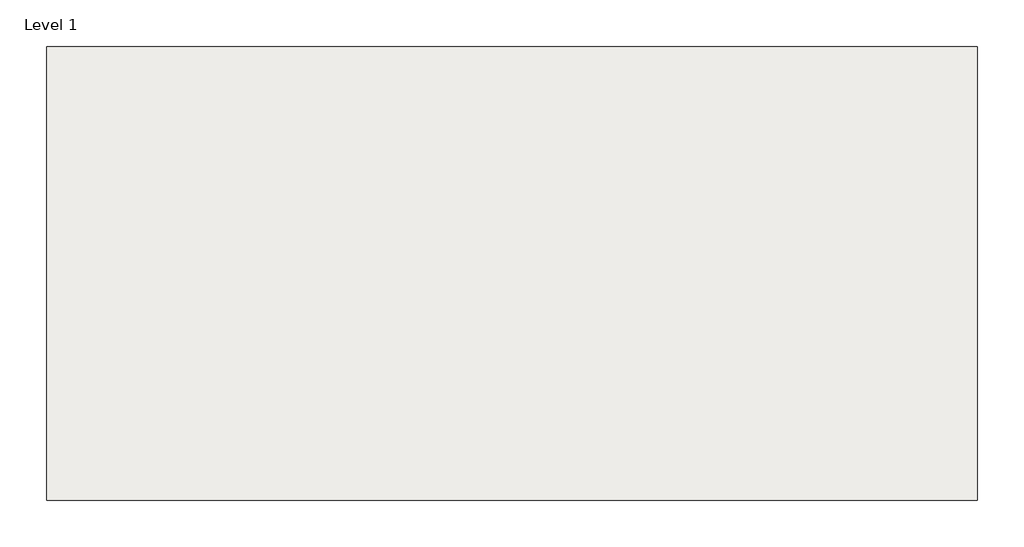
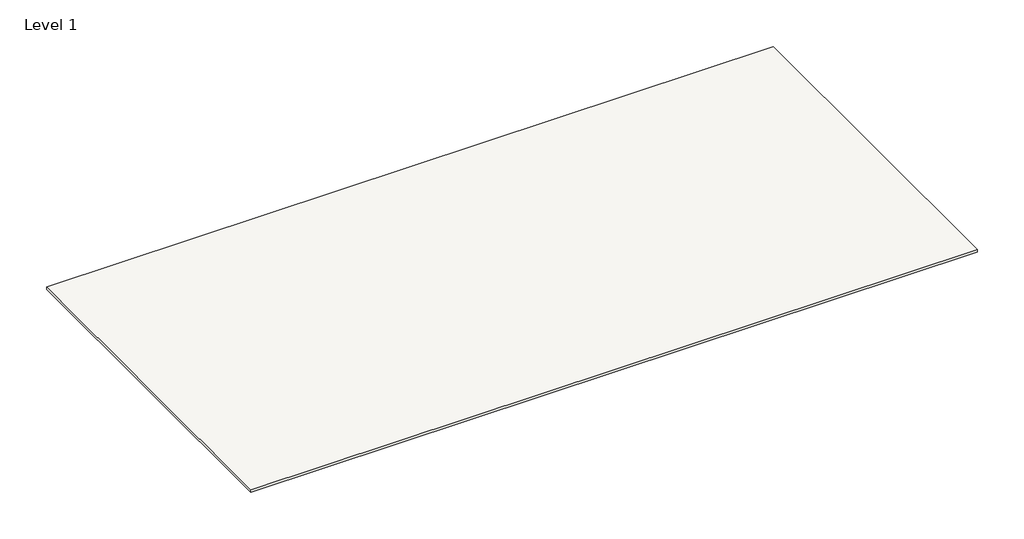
# One storey: 1 slab.
"""IFC4 building model written with IfcOpenShell, lengths in millimetres."""

import ifcopenshell
import ifcopenshell.guid

model = None  # the IFC model being written
_history = None  # IfcOwnerHistory: only IFC2X3 demands one
_inside = {}  # id of a spatial element -> (the spatial element, [elements in it])
_under = {}  # id of a project, library or spatial element -> (it, [spatial elements below it])
_declared = {}  # id of a project -> (the project, [libraries it declares])
_typed = {}  # id of a type object -> (the type object, [elements of that type])
_made_of = {}  # id of a material, layer set ... -> (it, [elements and type objects made of it])


def new_model(schema):
    """Start an empty IFC model of exactly this schema.

    Asked for "IFC4X3", IfcOpenShell would pick the latest addendum, in which some entities
    have other attributes; the version numbers below select the first issue.
    IFC2X3 requires an IfcOwnerHistory on every rooted entity: one is made here for all.
    """
    global model, _history
    if schema == "IFC4X3":
        model = ifcopenshell.file(schema_version=(4, 3, 0, 0))
    else:
        model = ifcopenshell.file(schema=schema)
    _inside.clear()
    _under.clear()
    _declared.clear()
    _typed.clear()
    _made_of.clear()
    _history = None
    if model.schema == "IFC2X3":
        org = make("IfcOrganization", Name="unknown")
        user = make(
            "IfcPersonAndOrganization",
            ThePerson=make("IfcPerson", FamilyName="unknown"),
            TheOrganization=org,
        )
        app = make(
            "IfcApplication",
            ApplicationDeveloper=org,
            Version="unknown",
            ApplicationFullName="unknown",
            ApplicationIdentifier="unknown",
        )
        _history = make(
            "IfcOwnerHistory",
            OwningUser=user,
            OwningApplication=app,
            ChangeAction="ADDED",
            CreationDate=0,
        )
    return model


def make(cls, **values):
    """One entity of the class cls with the attributes given. An attribute that is None is left unset."""
    return model.create_entity(
        cls, **{name: value for name, value in values.items() if value is not None}
    )


def rooted(cls, **values):
    """An entity with a GlobalId (a new one), such as an element, a storey or a relation."""
    return make(cls, GlobalId=ifcopenshell.guid.new(), OwnerHistory=_history, **values)


def si_unit(unit_type, name, prefix=None):
    """IfcSIUnit, for example si_unit("LENGTHUNIT", "METRE", prefix="MILLI")."""
    return make("IfcSIUnit", UnitType=unit_type, Prefix=prefix, Name=name)


def assignment(units):
    """IfcUnitAssignment: the units of a project."""
    return None if units is None else make("IfcUnitAssignment", Units=units)


def point(xyz):
    """IfcCartesianPoint."""
    return None if xyz is None else make("IfcCartesianPoint", Coordinates=xyz)


def direction(xyz):
    """IfcDirection."""
    return None if xyz is None else make("IfcDirection", DirectionRatios=xyz)


def frame(location, z_axis=None, x_axis=None):
    """IfcAxis2Placement3D, a coordinate frame: its origin and axes. An axis left out is left unset."""
    return make(
        "IfcAxis2Placement3D",
        Location=point(location),
        Axis=direction(z_axis),
        RefDirection=direction(x_axis),
    )


def origin():
    """The frame at (0, 0, 0) with its axes left unset."""
    return frame((0.0, 0.0, 0.0))


def place(relative_to, where):
    """IfcLocalPlacement: puts the frame where relative to a parent placement (None: the world)."""
    return make(
        "IfcLocalPlacement", PlacementRelTo=relative_to, RelativePlacement=where
    )


def context(
    kind, dimensions, precision=None, world=None, true_north=None, identifier=None
):
    """IfcGeometricRepresentationContext, for example the 3D "Model" context."""
    return make(
        "IfcGeometricRepresentationContext",
        ContextIdentifier=identifier,
        ContextType=kind,
        CoordinateSpaceDimension=dimensions,
        Precision=precision,
        WorldCoordinateSystem=world,
        TrueNorth=true_north,
    )


def project(units=None, contexts=None):
    """IfcProject with its units and contexts."""
    return rooted(
        "IfcProject",
        Name="project",
        RepresentationContexts=contexts,
        UnitsInContext=assignment(units),
    )


def spatial(cls, under=None, at=None, **own):
    """A site, building, storey or space (cls), placed at a placement, below another one or the project."""
    s = rooted(cls, ObjectPlacement=at, **own)
    if under is not None:
        _under.setdefault(under.id(), (under, []))[1].append(s)
    return s


def polyline(points):
    """IfcPolyline through the points."""
    return make("IfcPolyline", Points=[point(p) for p in points])


def outline(outer, holes=None, kind="AREA"):
    """IfcArbitraryClosedProfileDef: a profile drawn as a closed curve; with holes, ...WithVoids."""
    if holes is None:
        return make("IfcArbitraryClosedProfileDef", ProfileType=kind, OuterCurve=outer)
    return make(
        "IfcArbitraryProfileDefWithVoids",
        ProfileType=kind,
        OuterCurve=outer,
        InnerCurves=holes,
    )


def extrude(swept, where, along, depth):
    """IfcExtrudedAreaSolid: the profile swept, set in the frame where, extruded along a direction by depth."""
    return make(
        "IfcExtrudedAreaSolid",
        SweptArea=swept,
        Position=where,
        ExtrudedDirection=direction(along),
        Depth=depth,
    )


def shape(context_of_items, identifier, shape_type, items):
    """IfcShapeRepresentation: the items that make up one representation, for example the "Body"."""
    return make(
        "IfcShapeRepresentation",
        ContextOfItems=context_of_items,
        RepresentationIdentifier=identifier,
        RepresentationType=shape_type,
        Items=items,
    )


def made_of(thing, what):
    """Note that an element or type object is made of a material, layer set ...; save() writes the relation."""
    if what is not None:
        _made_of.setdefault(what.id(), (what, []))[1].append(thing)
    return thing


def element(
    cls,
    number,
    at=None,
    inside=None,
    cuts=None,
    type_object=None,
    material=None,
    context=None,
    identifier="Body",
    shape_type=None,
    held_by="IfcProductDefinitionShape",
    body=None,
    shapes=None,
    **own,
):
    """One element of the class cls, such as IfcWall. Its Tag is "e" and its number.

    at: its placement. inside: the storey or other place that contains it. cuts: it is an
    opening in that element (IfcRelVoidsElement). A single representation is given by context,
    identifier, shape_type and body (its items); several are given by shapes. held_by: the class
    of the entity that holds the representations. save() writes the other relations.
    """
    e = rooted(cls, Tag="e%d" % number, ObjectPlacement=at, **own)
    if body is not None:
        shapes = [shape(context, identifier, shape_type, body)]
    if shapes is not None:
        e.Representation = make(held_by, Representations=shapes)
    if inside is not None:
        _inside.setdefault(inside.id(), (inside, []))[1].append(e)
    if cuts is not None:
        rooted(
            "IfcRelVoidsElement", RelatingBuildingElement=cuts, RelatedOpeningElement=e
        )
    if type_object is not None:
        _typed.setdefault(type_object.id(), (type_object, []))[1].append(e)
    return made_of(e, material)


def aggregate(whole, parts):
    """IfcRelAggregates: a whole, such as a stair, and the parts it consists of."""
    return rooted("IfcRelAggregates", RelatingObject=whole, RelatedObjects=parts)


def save(model, path):
    """Write the relations noted so far, then the file.

    IfcRelAggregates (storeys below a building ...), IfcRelContainedInSpatialStructure (elements
    in a storey), IfcRelDefinesByType, IfcRelAssociatesMaterial and IfcRelDeclares: one each for
    every whole, place, type object, material and project.
    """
    for whole, parts in _under.values():
        aggregate(whole, parts)
    for where, things in _inside.values():
        rooted(
            "IfcRelContainedInSpatialStructure",
            RelatedElements=things,
            RelatingStructure=where,
        )
    for kind, things in _typed.values():
        rooted("IfcRelDefinesByType", RelatedObjects=things, RelatingType=kind)
    for what, things in _made_of.values():
        rooted("IfcRelAssociatesMaterial", RelatedObjects=things, RelatingMaterial=what)
    for by, libraries in _declared.values():
        rooted("IfcRelDeclares", RelatingContext=by, RelatedDefinitions=libraries)
    model.write(path)


model = new_model("IFC4")

# Units and contexts
model_context = context("Model", 3, world=origin())
ifc_project = project(units=[si_unit("LENGTHUNIT", "METRE", prefix="MILLI")], contexts=[model_context])

# Site, building, storey
site = spatial("IfcSite", under=ifc_project)
building = spatial("IfcBuilding", under=site)
storey = spatial("IfcBuildingStorey", under=building, Name="Level 1", Elevation=0.0)

# Slab
placement = place(None, origin())
element("IfcSlab", 1, ObjectType="Generic 150mm", at=placement, inside=storey, context=model_context, shape_type="SweptSolid", body=[
    extrude(outline(polyline([(-19918.0624217, 6645.7766516), (19081.9375783, 6645.7766516), (19081.9375783, -12354.2233484), (-19918.0624217, -12354.2233484), (-19918.0624217, 6645.7766516)])), frame((0.0, 0.0, -150.0), z_axis=(0.0, 0.0, 1.0), x_axis=(1.0, 0.0, 0.0)), (0.0, 0.0, 1.0), 150.0),
])

save(model, "model.ifc")
